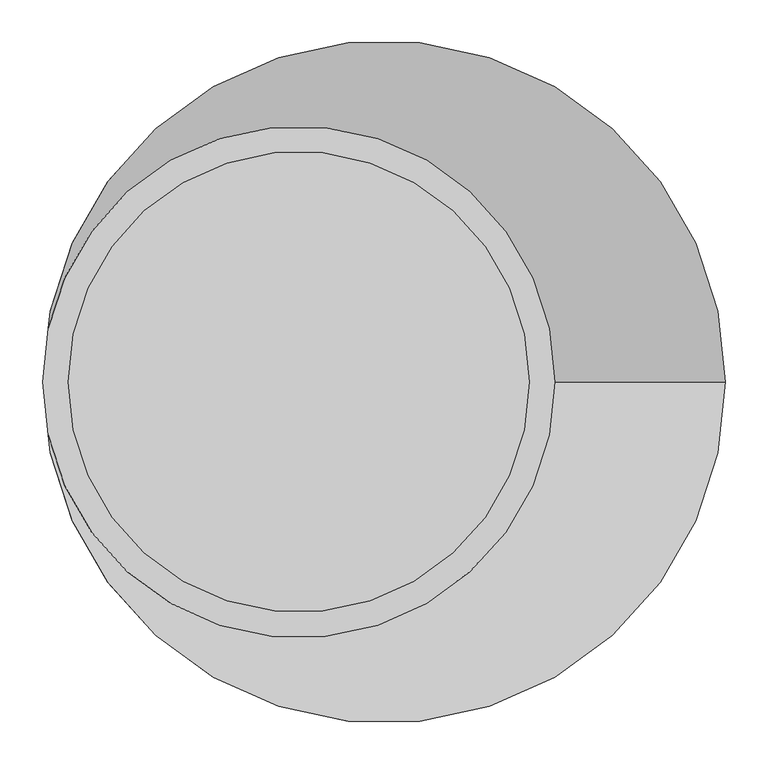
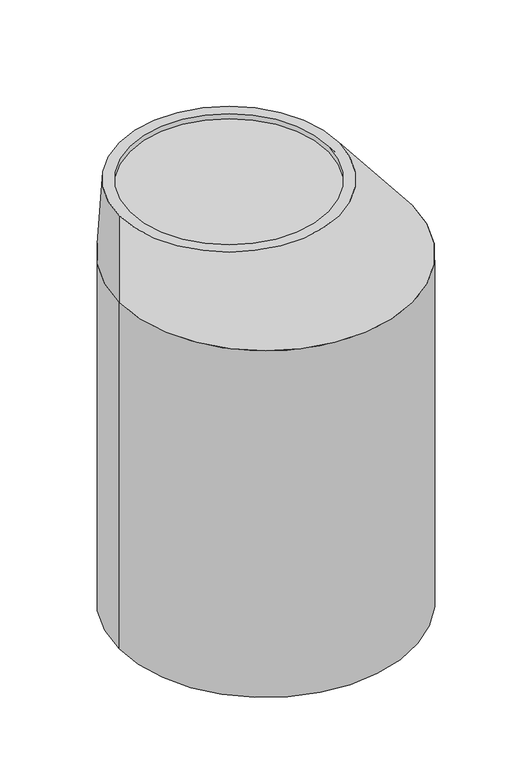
"""IFC4 building model written with IfcOpenShell, lengths in millimetres: flow terminal geometry, Versickerungsschacht : Versickerungsschacht."""

from ifc_helpers import new_model, si_unit, point, frame, frame_2d, origin, origin_with_axes, origin_2d, place, context, project, spatial, circle_curve, trimmed, segment, composite_curve, outline, extrude, source, transform, mapped, element, save
from ifc_brep_helpers import plane_surface, spline_surface, advanced_brep


def flow_terminal_82f1f436(model_context):
    return source(origin(), model_context, "Body", "SolidModel", [
        advanced_brep(
        [(-300.0, 0.0, 0.0), (300.0, 0.0, 0.0), (-270.0, 0.0, 0.0), (270.0, 0.0, 0.0), (-300.0, 0.0, -250.0), (500.0, 0.0, -250.0), (470.0, 0.0, -250.0), (-270.0, 0.0, -250.0)],
        [
            (0, 1, circle_curve(origin_with_axes(), 300.0)),
            (1, 0, circle_curve(origin_with_axes(), 300.0)),
            (2, 3, circle_curve(frame((0.0, 0.0, 0.0), z_axis=(0.0, 0.0, -1.0), x_axis=(1.0, 0.0, 0.0)), 270.0)),
            (3, 2, circle_curve(frame((0.0, 0.0, 0.0), z_axis=(0.0, 0.0, -1.0), x_axis=(1.0, 0.0, 0.0)), 270.0)),
            (4, 5, circle_curve(frame((100.0, 0.0, -250.0), z_axis=(0.0, 0.0, -1.0), x_axis=(1.0, 0.0, 0.0)), 400.0)),
            (5, 4, circle_curve(frame((100.0, 0.0, -250.0), z_axis=(0.0, 0.0, -1.0), x_axis=(1.0, 0.0, 0.0)), 400.0)),
            (6, 7, circle_curve(frame((100.0, 0.0, -250.0), z_axis=(0.0, 0.0, 1.0), x_axis=(1.0, 0.0, 0.0)), 370.0)),
            (7, 6, circle_curve(frame((100.0, 0.0, -250.0), z_axis=(0.0, 0.0, 1.0), x_axis=(1.0, 0.0, 0.0)), 370.0)),
            (1, 5),
            (4, 0),
            (7, 2),
            (3, 6),
        ],
        [
            plane_surface(frame((0.0, 0.0, 0.0), z_axis=(0.0, 0.0, 1.0), x_axis=(0.0, 1.0, 0.0))),
            plane_surface(frame((100.0, 0.0, -250.0), z_axis=(0.0, 0.0, -1.0), x_axis=(0.0, 1.0, 0.0))),
            spline_surface(1, 2, [[(-300.0, 0.0, -250.0), (-300.0, 400.0, -250.0), (100.0, 400.0, -250.0), (500.0, 400.0, -250.0), (500.0, 0.0, -250.0)], [(-300.0, 0.0, 0.0), (-300.0, 300.0, 0.0), (0.0, 300.0, 0.0), (300.0, 300.0, 0.0), (300.0, 0.0, 0.0)]], [2, 2], [3, 2, 3], [0.0, 1.0], [0.0, 1.0, 2.0], weights=[[1.0, 0.7071067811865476, 1.0, 0.7071067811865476, 1.0], [1.0, 0.7071067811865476, 1.0, 0.7071067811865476, 1.0]]),
            spline_surface(1, 2, [[(500.0, 0.0, -250.0), (500.0, -400.0, -250.0), (100.0, -400.0, -250.0), (-300.0, -400.0, -250.0), (-300.0, 0.0, -250.0)], [(300.0, 0.0, 0.0), (300.0, -300.0, 0.0), (0.0, -300.0, 0.0), (-300.0, -300.0, 0.0), (-300.0, 0.0, 0.0)]], [2, 2], [3, 2, 3], [0.0, 1.0], [0.0, 1.0, 2.0], weights=[[1.0, 0.7071067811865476, 1.0, 0.7071067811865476, 1.0], [1.0, 0.7071067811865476, 1.0, 0.7071067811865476, 1.0]]),
            spline_surface(2, 1, [[(470.0, 0.0, -250.0), (270.0, 0.0, 0.0)], [(470.0, -370.0, -250.0), (270.0, -270.0, 0.0)], [(100.0, -370.0, -250.0), (0.0, -270.0, 0.0)], [(-270.0, -370.0, -250.0), (-270.0, -270.0, 0.0)], [(-270.0, 0.0, -250.0), (-270.0, 0.0, 0.0)]], [3, 2, 3], [2, 2], [0.0, 1.0, 2.0], [0.0, 1.0], weights=[[1.0, 1.0], [0.7071067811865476, 0.7071067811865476], [1.0, 1.0], [0.7071067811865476, 0.7071067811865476], [1.0, 1.0]]),
            spline_surface(2, 1, [[(-270.0, 0.0, -250.0), (-270.0, 0.0, 0.0)], [(-270.0, 370.0, -250.0), (-270.0, 270.0, 0.0)], [(100.0, 370.0, -250.0), (0.0, 270.0, 0.0)], [(470.0, 370.0, -250.0), (270.0, 270.0, 0.0)], [(470.0, 0.0, -250.0), (270.0, 0.0, 0.0)]], [3, 2, 3], [2, 2], [0.0, 1.0, 2.0], [0.0, 1.0], weights=[[1.0, 1.0], [0.7071067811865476, 0.7071067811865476], [1.0, 1.0], [0.7071067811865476, 0.7071067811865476], [1.0, 1.0]]),
        ],
        [
            (0, [[1, 2], [3, 4]]),
            (1, [[5, 6], [7, 8]]),
            (2, [[9, -5, 10, -2]]),
            (3, [[-10, -6, -9, -1]]),
            (4, [[-8, 11, -4, 12]]),
            (5, [[-3, -11, -7, -12]]),
        ],
    ),
        extrude(outline(composite_curve([segment(trimmed(circle_curve(frame_2d((100.0, 0.0)), 370.0), [point((-270.0, 0.0))], [point((470.0, 0.0))], False, "CARTESIAN"), True, "CONTINUOUS"), segment(trimmed(circle_curve(frame_2d((100.0, 0.0)), 370.0), [point((470.0, 0.0))], [point((-270.0, 0.0))], False, "CARTESIAN"), True, "CONTINUOUS")], self_intersect=False)), frame((0.0, 0.0, -1250.0), z_axis=(0.0, 0.0, 1.0), x_axis=(1.0, 0.0, 0.0)), (0.0, 0.0, 1.0), 50.0),
        extrude(outline(composite_curve([segment(trimmed(circle_curve(origin_2d(), 270.0), [point((270.0, 0.0))], [point((-270.0, 0.0))], False, "CARTESIAN"), True, "CONTINUOUS"), segment(trimmed(circle_curve(origin_2d(), 270.0), [point((-270.0, 0.0))], [point((270.0, 0.0))], False, "CARTESIAN"), True, "CONTINUOUS")], self_intersect=False)), frame((0.0, 0.0, -518.2413723), z_axis=(0.0, 0.0, 1.0), x_axis=(1.0, 0.0, 0.0)), (0.0, 0.0, 1.0), 503.560048),
        extrude(outline(composite_curve([segment(trimmed(circle_curve(frame_2d((100.0, 0.0)), 400.0), [point((500.0, 0.0))], [point((-300.0, 0.0))], False, "CARTESIAN"), True, "CONTINUOUS"), segment(trimmed(circle_curve(frame_2d((100.0, 0.0)), 400.0), [point((-300.0, 0.0))], [point((500.0, 0.0))], False, "CARTESIAN"), True, "CONTINUOUS")], self_intersect=False), holes=[composite_curve([segment(trimmed(circle_curve(frame_2d((100.0, 0.0)), 370.0), [point((470.0, 0.0))], [point((-270.0, 0.0))], True, "CARTESIAN"), True, "CONTINUOUS"), segment(trimmed(circle_curve(frame_2d((100.0, 0.0)), 370.0), [point((-270.0, 0.0))], [point((470.0, 0.0))], True, "CARTESIAN"), True, "CONTINUOUS")], self_intersect=False)]), frame((0.0, 0.0, -1250.0), z_axis=(0.0, 0.0, 1.0), x_axis=(1.0, 0.0, 0.0)), (0.0, 0.0, 1.0), 1000.0),
    ])


if __name__ == "__main__":
    model = new_model("IFC4")
    model_context = context("Model", 3, world=origin())
    ifc_project = project(units=[si_unit("LENGTHUNIT", "METRE", prefix="MILLI")], contexts=[model_context])
    site = spatial("IfcSite", under=ifc_project)
    building = spatial("IfcBuilding", under=site)
    placement = place(None, origin())
    flow_terminal_shape = flow_terminal_82f1f436(model_context)
    element("IfcFlowTerminal", 1, ObjectType="Versickerungsschacht : Versickerungsschacht", at=placement, inside=building, context=model_context, shape_type="MappedRepresentation", body=[
        mapped(flow_terminal_shape, transform((0.0, 0.0, 0.0), x_axis=(1.0, 0.0, 0.0), y_axis=(0.0, 1.0, 0.0), z_axis=(0.0, 0.0, 1.0))),
    ])
    save(model, "model.ifc")
